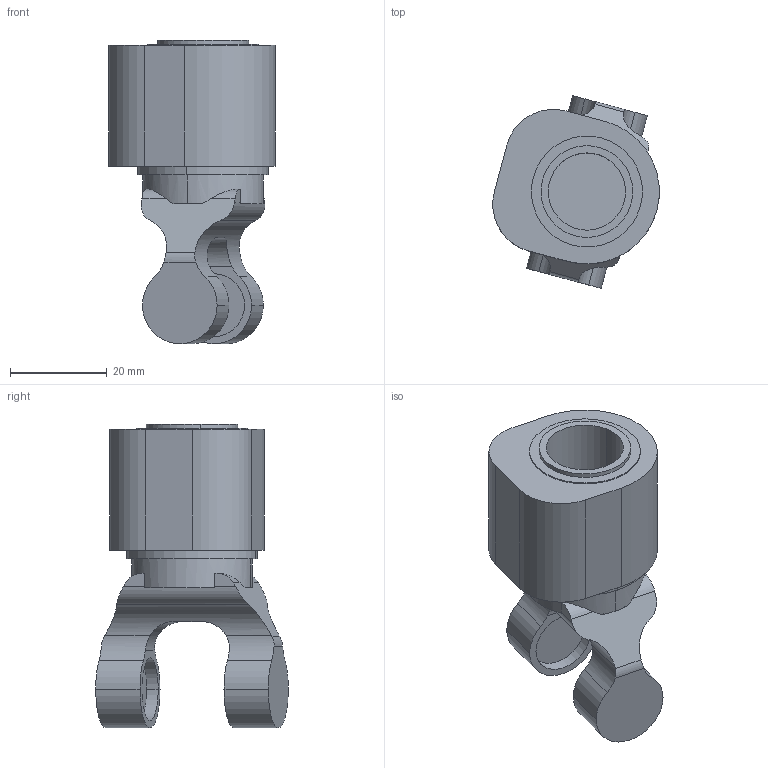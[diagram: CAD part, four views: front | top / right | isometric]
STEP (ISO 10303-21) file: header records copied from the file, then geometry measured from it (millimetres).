
FILE_DESCRIPTION (( 'STEP AP214' ), '1' );
FILE_NAME ('IRB365_1.5-1300_OmniCore_rev00_UNIVERSAL_JOINT_1_CAD.STEP', '2025-09-10T10:46:30', ( '' ), ( '' ), 'SwSTEP 2.0', 'SolidWorks 2024', '' );
FILE_SCHEMA (( 'AUTOMOTIVE_DESIGN' ));
Length unit declared in the file: millimetre
Products named in the file (1): IRB365_1.5-1300_OmniCore_rev00_UNIVERSAL_JOINT_1_CAD
Bounding box: 34.41 x 39.88 x 62.88 mm (x, y, z)
Volume: 28021.1 mm3; surface area: 9310.8 mm2
Topology: 1 solids, 2 shells, 73 faces, 186 edges, 124 vertices
Faces by surface type: cylinder 41, plane 32
Entity records: 3323 total; most frequent: CARTESIAN_POINT 723, DIRECTION 376, ORIENTED_EDGE 372, EDGE_CURVE 186, AXIS2_PLACEMENT_3D 148, VERTEX_POINT 124, EDGE_LOOP 82, VECTOR 80
